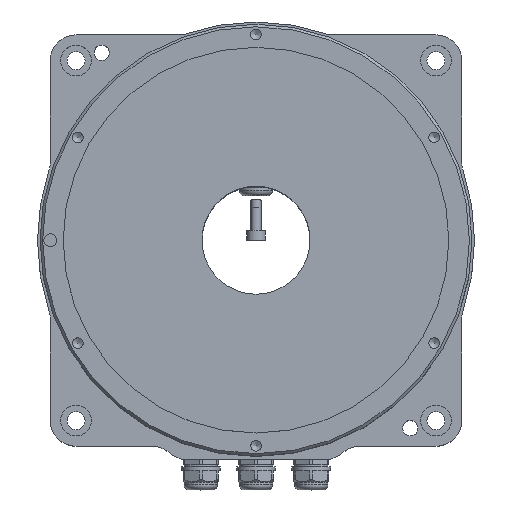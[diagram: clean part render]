
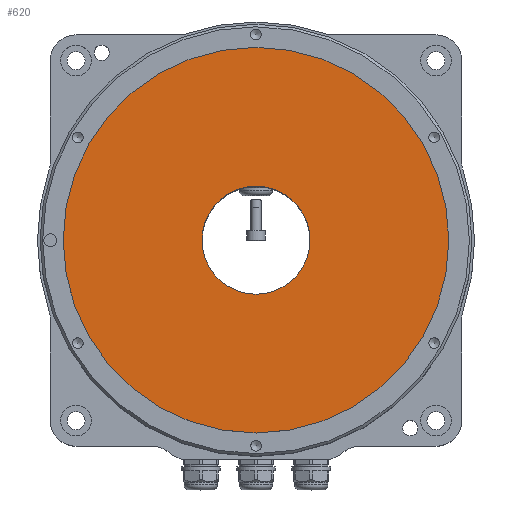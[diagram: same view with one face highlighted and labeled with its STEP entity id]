
A CAD part, top view. The second image highlights one B-rep face of the part: STEP entity #620.
In plain terms, the highlighted planar face has unit normal (0, 0, 1).
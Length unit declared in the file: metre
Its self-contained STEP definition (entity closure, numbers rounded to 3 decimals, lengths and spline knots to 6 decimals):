
#620 = ADVANCED_FACE( '', ( #842, #843 ), #844, .T. );
#842 = FACE_BOUND( '', #1417, .T. );
#843 = FACE_OUTER_BOUND( '', #1418, .T. );
#844 = PLANE( '', #1419 );
#1417 = EDGE_LOOP( '', ( #2126 ) );
#1418 = EDGE_LOOP( '', ( #2127 ) );
#1419 = AXIS2_PLACEMENT_3D( '', #2128, #2129, #2130 );
#2126 = ORIENTED_EDGE( '', *, *, #3480, .T. );
#2127 = ORIENTED_EDGE( '', *, *, #3481, .F. );
#2128 = CARTESIAN_POINT( '', ( -0.075, 0., 0.0145 ) );
#2129 = DIRECTION( '', ( 0., 0., 1. ) );
#2130 = DIRECTION( '', ( 1., 0., 0. ) );
#3480 = EDGE_CURVE( '', #4203, #4203, #4204, .T. );
#3481 = EDGE_CURVE( '', #4205, #4205, #4206, .T. );
#4203 = VERTEX_POINT( '', #4809 );
#4204 = CIRCLE( '', #4810, 0.021 );
#4205 = VERTEX_POINT( '', #4811 );
#4206 = CIRCLE( '', #4812, 0.075 );
#4809 = CARTESIAN_POINT( '', ( -0.021, 0., 0.0145 ) );
#4810 = AXIS2_PLACEMENT_3D( '', #5919, #5920, #5921 );
#4811 = CARTESIAN_POINT( '', ( -0.075, 0., 0.0145 ) );
#4812 = AXIS2_PLACEMENT_3D( '', #5922, #5923, #5924 );
#5919 = CARTESIAN_POINT( '', ( 0., 0., 0.0145 ) );
#5920 = DIRECTION( '', ( 0., 0., -1. ) );
#5921 = DIRECTION( '', ( -1., 0., 0. ) );
#5922 = CARTESIAN_POINT( '', ( 0., 0., 0.0145 ) );
#5923 = DIRECTION( '', ( 0., 0., -1. ) );
#5924 = DIRECTION( '', ( -1., 0., 0. ) );
